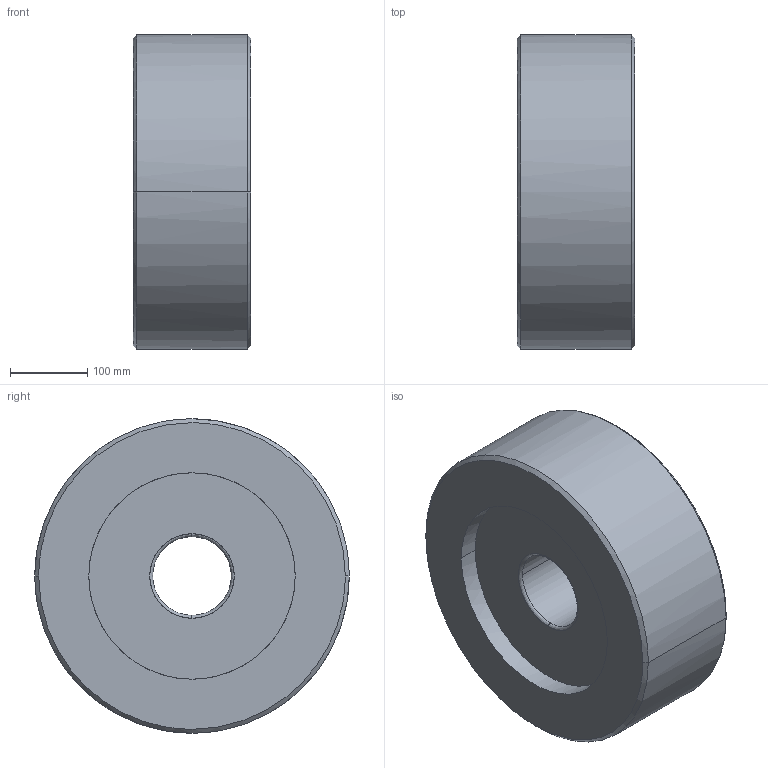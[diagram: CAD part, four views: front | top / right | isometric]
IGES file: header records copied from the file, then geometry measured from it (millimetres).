
Global section: native system: Kubotek KeyCreator; preprocessor: KCM Version 1.1.1442.0; author: KeyCreator User; organization: Self; date: 20170713.025329; units: inch
Bounding box: 152.4 x 406.4 x 406.4 mm (x, y, z)
Surface area: 504261.1 mm2 (no closed solid volume)
Topology: 0 solids, 0 shells, 20 faces, 128 edges, 128 vertices
Faces by surface type: bspline 20
